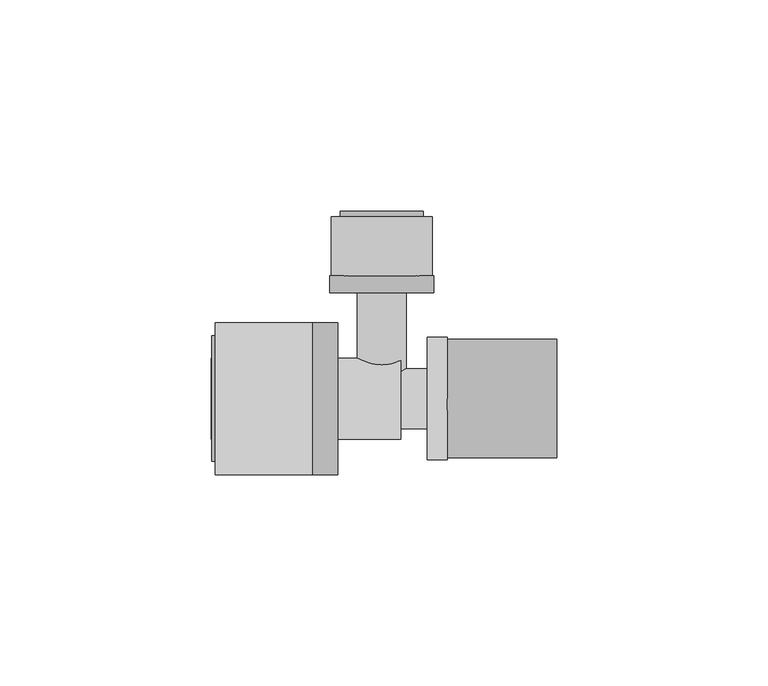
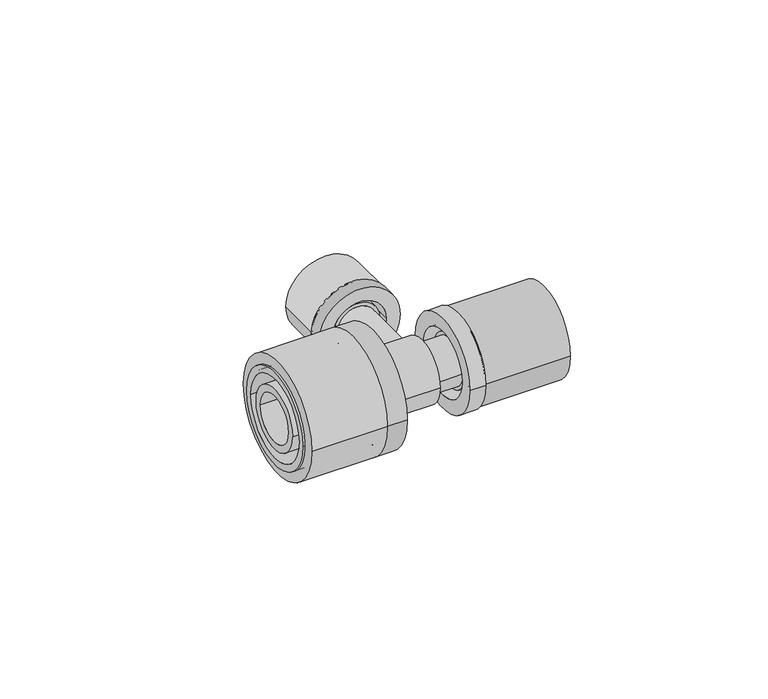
"""IFC4 building model written with IfcOpenShell, lengths in millimetres: pipe fitting geometry, FASTLOC_T-piece_LX : FSL T-Piece LX CZ."""

from ifc_helpers import new_model, si_unit, point, frame, origin, origin_2d, place, context, project, spatial, polyline, circle_curve, trimmed, segment, composite_curve, outline, extrude, source, transform, mapped, element, save
from ifc_brep_helpers import plane_surface, cylinder_surface, revolved_surface, advanced_brep


def pipe_fitting_3bea6388(model_context):
    return source(origin(), model_context, "Body", "SolidModel", [
        extrude(outline(composite_curve([segment(trimmed(circle_curve(origin_2d(), 14.0), [point((-14.0, 0.0))], [point((14.0, 0.0))], False, "CARTESIAN"), True, "CONTINUOUS"), segment(trimmed(circle_curve(origin_2d(), 14.0), [point((14.0, 0.0))], [point((-14.0, 0.0))], False, "CARTESIAN"), True, "CONTINUOUS")], self_intersect=False), holes=[composite_curve([segment(trimmed(circle_curve(origin_2d(), 10.7), [point((-10.7, 0.0))], [point((10.7, 0.0))], True, "CARTESIAN"), True, "CONTINUOUS"), segment(trimmed(circle_curve(origin_2d(), 10.7), [point((10.7, 0.0))], [point((-10.7, 0.0))], True, "CARTESIAN"), True, "CONTINUOUS")], self_intersect=False)]), frame((15.5, 0.0, 0.0), z_axis=(1.0, 0.0, 0.0), x_axis=(0.0, 1.0, 0.0)), (0.0, 0.0, 1.0), 26.0),
        advanced_brep(
        [(15.5, 14.5, 0.0), (15.5, -14.5, 0.0), (10.8, -14.5, 0.0), (10.8, 14.5, 0.0), (32.5, 11.85, 0.0), (32.5, -11.85, 0.0), (15.5, -11.85, 0.0), (15.5, 11.85, 0.0), (10.8, 10.15, 0.0), (10.8, -10.15, 0.0), (32.5, -10.15, 0.0), (32.5, 10.15, 0.0)],
        [
            (0, 1, circle_curve(frame((15.5, 0.0, 0.0), z_axis=(-1.0, 0.0, 0.0), x_axis=(0.0, -1.0, 0.0)), 14.5)),
            (1, 2),
            (2, 3, circle_curve(frame((10.8, 0.0, 0.0), z_axis=(1.0, 0.0, 0.0), x_axis=(0.0, -1.0, 0.0)), 14.5)),
            (3, 0),
            (4, 5, circle_curve(frame((32.5, 0.0, 0.0), z_axis=(-1.0, 0.0, 0.0), x_axis=(0.0, -1.0, 0.0)), 11.85)),
            (5, 6),
            (6, 7, circle_curve(frame((15.5, 0.0, 0.0), z_axis=(1.0, 0.0, 0.0), x_axis=(0.0, -1.0, 0.0)), 11.85)),
            (7, 4),
            (8, 9, circle_curve(frame((10.8, 0.0, 0.0), z_axis=(-1.0, 0.0, 0.0), x_axis=(0.0, -1.0, 0.0)), 10.15)),
            (9, 10),
            (10, 11, circle_curve(frame((32.5, 0.0, 0.0), z_axis=(1.0, 0.0, 0.0), x_axis=(0.0, -1.0, 0.0)), 10.15)),
            (11, 8),
            (1, 0, circle_curve(frame((15.5, 0.0, 0.0), z_axis=(-1.0, 0.0, 0.0), x_axis=(0.0, 1.0, 0.0)), 14.5)),
            (3, 2, circle_curve(frame((10.8, 0.0, 0.0), z_axis=(1.0, 0.0, 0.0), x_axis=(0.0, 1.0, 0.0)), 14.5)),
            (6, 7, circle_curve(frame((15.5, 0.0, 0.0), z_axis=(-1.0, 0.0, 0.0), x_axis=(0.0, 1.0, 0.0)), 11.85)),
            (5, 4, circle_curve(frame((32.5, 0.0, 0.0), z_axis=(-1.0, 0.0, 0.0), x_axis=(0.0, 1.0, 0.0)), 11.85)),
            (10, 11, circle_curve(frame((32.5, 0.0, 0.0), z_axis=(-1.0, 0.0, 0.0), x_axis=(0.0, 1.0, 0.0)), 10.15)),
            (9, 8, circle_curve(frame((10.8, 0.0, 0.0), z_axis=(-1.0, 0.0, 0.0), x_axis=(0.0, 1.0, 0.0)), 10.15)),
        ],
        [
            cylinder_surface(frame((10.8, 0.0, 0.0), z_axis=(1.0, 0.0, 0.0), x_axis=(0.0, -1.0, 0.0)), 14.5),
            cylinder_surface(frame((10.8, 0.0, 0.0), z_axis=(1.0, 0.0, 0.0), x_axis=(0.0, -1.0, 0.0)), 11.85),
            revolved_surface(polyline([(32.5, -10.15, 0.0), (10.8, -10.15, 0.0)]), (10.8, 0.0, 0.0), (1.0, 0.0, 0.0)),
            cylinder_surface(frame((10.8, 0.0, 0.0), z_axis=(1.0, 0.0, 0.0), x_axis=(0.0, 1.0, 0.0)), 14.5),
            plane_surface(frame((15.5, 0.0, 0.0), z_axis=(1.0, 0.0, 0.0), x_axis=(0.0, 1.0, 0.0))),
            cylinder_surface(frame((10.8, 0.0, 0.0), z_axis=(1.0, 0.0, 0.0), x_axis=(0.0, 1.0, 0.0)), 11.85),
            plane_surface(frame((32.5, 0.0, 0.0), z_axis=(1.0, 0.0, 0.0), x_axis=(0.0, 1.0, 0.0))),
            revolved_surface(polyline([(32.5, 10.15, 0.0), (10.8, 10.15, 0.0)]), (10.8, 0.0, 0.0), (1.0, 0.0, 0.0)),
            plane_surface(frame((10.8, 0.0, 0.0), z_axis=(-1.0, 0.0, 0.0), x_axis=(0.0, 1.0, 0.0))),
        ],
        [
            (0, [[1, 2, 3, 4]]),
            (1, [[5, 6, 7, 8]]),
            (2, [[9, 10, 11, 12]]),
            (3, [[13, -4, 14, -2]]),
            (4, [[-13, -1], [15, -7]]),
            (5, [[16, -8, -15, -6]]),
            (6, [[-16, -5], [17, -11]]),
            (7, [[18, -12, -17, -10]]),
            (8, [[-14, -3], [-18, -9]]),
        ],
    ),
        extrude(outline(composite_curve([segment(trimmed(circle_curve(origin_2d(), 18.0), [point((18.0, 0.0))], [point((-18.0, 0.0))], False, "CARTESIAN"), True, "CONTINUOUS"), segment(trimmed(circle_curve(origin_2d(), 18.0), [point((-18.0, 0.0))], [point((18.0, 0.0))], False, "CARTESIAN"), True, "CONTINUOUS")], self_intersect=False), holes=[composite_curve([segment(trimmed(circle_curve(origin_2d(), 13.5), [point((13.5, 0.0))], [point((-13.5, 0.0))], True, "CARTESIAN"), True, "CONTINUOUS"), segment(trimmed(circle_curve(origin_2d(), 13.5), [point((-13.5, 0.0))], [point((13.5, 0.0))], True, "CARTESIAN"), True, "CONTINUOUS")], self_intersect=False)]), frame((-39.4, 0.0, 0.0), z_axis=(1.0, 0.0, 0.0), x_axis=(0.0, 1.0, 0.0)), (0.0, 0.0, 1.0), 23.0),
        advanced_brep(
        [(-16.4, -18.0, 0.0), (-16.4, 18.0, 0.0), (-10.4, 18.0, 0.0), (-10.4, -18.0, 0.0), (-40.2, -14.85, 0.0), (-40.2, 14.85, 0.0), (-16.4, 14.85, 0.0), (-16.4, -14.85, 0.0), (-10.4, -12.65, 0.0), (-10.4, 12.65, 0.0), (-40.2, 12.65, 0.0), (-40.2, -12.65, 0.0)],
        [
            (0, 1, circle_curve(frame((-16.4, 0.0, 0.0), z_axis=(1.0, 0.0, 0.0), x_axis=(0.0, 1.0, 0.0)), 18.0)),
            (1, 2),
            (2, 3, circle_curve(frame((-10.4, 0.0, 0.0), z_axis=(-1.0, 0.0, 0.0), x_axis=(0.0, 1.0, 0.0)), 18.0)),
            (3, 0),
            (4, 5, circle_curve(frame((-40.2, 0.0, 0.0), z_axis=(1.0, 0.0, 0.0), x_axis=(0.0, 1.0, 0.0)), 14.85)),
            (5, 6),
            (6, 7, circle_curve(frame((-16.4, 0.0, 0.0), z_axis=(-1.0, 0.0, 0.0), x_axis=(0.0, 1.0, 0.0)), 14.85)),
            (7, 4),
            (8, 9, circle_curve(frame((-10.4, 0.0, 0.0), z_axis=(1.0, 0.0, 0.0), x_axis=(0.0, 1.0, 0.0)), 12.65)),
            (9, 10),
            (10, 11, circle_curve(frame((-40.2, 0.0, 0.0), z_axis=(-1.0, 0.0, 0.0), x_axis=(0.0, 1.0, 0.0)), 12.65)),
            (11, 8),
            (1, 0, circle_curve(frame((-16.4, 0.0, 0.0), z_axis=(1.0, 0.0, 0.0), x_axis=(0.0, -1.0, 0.0)), 18.0)),
            (3, 2, circle_curve(frame((-10.4, 0.0, 0.0), z_axis=(-1.0, 0.0, 0.0), x_axis=(0.0, -1.0, 0.0)), 18.0)),
            (6, 7, circle_curve(frame((-16.4, 0.0, 0.0), z_axis=(1.0, 0.0, 0.0), x_axis=(0.0, -1.0, 0.0)), 14.85)),
            (5, 4, circle_curve(frame((-40.2, 0.0, 0.0), z_axis=(1.0, 0.0, 0.0), x_axis=(0.0, -1.0, 0.0)), 14.85)),
            (10, 11, circle_curve(frame((-40.2, 0.0, 0.0), z_axis=(1.0, 0.0, 0.0), x_axis=(0.0, -1.0, 0.0)), 12.65)),
            (9, 8, circle_curve(frame((-10.4, 0.0, 0.0), z_axis=(1.0, 0.0, 0.0), x_axis=(0.0, -1.0, 0.0)), 12.65)),
        ],
        [
            cylinder_surface(frame((-10.4, 0.0, 0.0), z_axis=(-1.0, 0.0, 0.0), x_axis=(0.0, 1.0, 0.0)), 18.0),
            cylinder_surface(frame((-10.4, 0.0, 0.0), z_axis=(-1.0, 0.0, 0.0), x_axis=(0.0, 1.0, 0.0)), 14.85),
            revolved_surface(polyline([(-40.2, 12.65, 0.0), (-10.4, 12.65, 0.0)]), (-10.4, 0.0, 0.0), (-1.0, 0.0, 0.0)),
            cylinder_surface(frame((-10.4, 0.0, 0.0), z_axis=(-1.0, 0.0, 0.0), x_axis=(0.0, -1.0, 0.0)), 18.0),
            plane_surface(frame((-16.4, 0.0, 0.0), z_axis=(-1.0, 0.0, 0.0), x_axis=(0.0, -1.0, 0.0))),
            cylinder_surface(frame((-10.4, 0.0, 0.0), z_axis=(-1.0, 0.0, 0.0), x_axis=(0.0, -1.0, 0.0)), 14.85),
            plane_surface(frame((-40.2, 0.0, 0.0), z_axis=(-1.0, 0.0, 0.0), x_axis=(0.0, -1.0, 0.0))),
            revolved_surface(polyline([(-40.2, -12.65, 0.0), (-10.4, -12.65, 0.0)]), (-10.4, 0.0, 0.0), (-1.0, 0.0, 0.0)),
            plane_surface(frame((-10.4, 0.0, 0.0), z_axis=(1.0, 0.0, 0.0), x_axis=(0.0, -1.0, 0.0))),
        ],
        [
            (0, [[1, 2, 3, 4]]),
            (1, [[5, 6, 7, 8]]),
            (2, [[9, 10, 11, 12]]),
            (3, [[13, -4, 14, -2]]),
            (4, [[-13, -1], [15, -7]]),
            (5, [[16, -8, -15, -6]]),
            (6, [[-16, -5], [17, -11]]),
            (7, [[18, -12, -17, -10]]),
            (8, [[-14, -3], [-18, -9]]),
        ],
    ),
        extrude(outline(composite_curve([segment(trimmed(circle_curve(origin_2d(), 12.0), [point((0.0, 12.0))], [point((0.0, -12.0))], False, "CARTESIAN"), True, "CONTINUOUS"), segment(trimmed(circle_curve(origin_2d(), 12.0), [point((0.0, -12.0))], [point((0.0, 12.0))], False, "CARTESIAN"), True, "CONTINUOUS")], self_intersect=False), holes=[composite_curve([segment(trimmed(circle_curve(origin_2d(), 8.85), [point((0.0, 8.85))], [point((0.0, -8.85))], True, "CARTESIAN"), True, "CONTINUOUS"), segment(trimmed(circle_curve(origin_2d(), 8.85), [point((0.0, -8.85))], [point((0.0, 8.85))], True, "CARTESIAN"), True, "CONTINUOUS")], self_intersect=False)]), frame((0.0, 29.1, 0.0), z_axis=(0.0, 1.0, 0.0), x_axis=(0.0, 0.0, 1.0)), (0.0, 0.0, 1.0), 14.0),
        advanced_brep(
        [(-12.35, 29.1, 0.0), (12.35, 29.1, 0.0), (12.35, 25.1, 0.0), (-12.35, 25.1, 0.0), (-9.85, 44.4, 0.0), (9.85, 44.4, 0.0), (9.85, 29.1, 0.0), (-9.85, 29.1, 0.0), (-8.15, 25.1, 0.0), (8.15, 25.1, 0.0), (8.15, 44.4, 0.0), (-8.15, 44.4, 0.0)],
        [
            (0, 1, circle_curve(frame((0.0, 29.1, 0.0), z_axis=(0.0, -1.0, 0.0), x_axis=(1.0, 0.0, 0.0)), 12.35)),
            (1, 2),
            (2, 3, circle_curve(frame((0.0, 25.1, 0.0), z_axis=(0.0, 1.0, 0.0), x_axis=(1.0, 0.0, 0.0)), 12.35)),
            (3, 0),
            (4, 5, circle_curve(frame((0.0, 44.4, 0.0), z_axis=(0.0, -1.0, 0.0), x_axis=(1.0, 0.0, 0.0)), 9.85)),
            (5, 6),
            (6, 7, circle_curve(frame((0.0, 29.1, 0.0), z_axis=(0.0, 1.0, 0.0), x_axis=(1.0, 0.0, 0.0)), 9.85)),
            (7, 4),
            (8, 9, circle_curve(frame((0.0, 25.1, 0.0), z_axis=(0.0, -1.0, 0.0), x_axis=(1.0, 0.0, 0.0)), 8.15)),
            (9, 10),
            (10, 11, circle_curve(frame((0.0, 44.4, 0.0), z_axis=(0.0, 1.0, 0.0), x_axis=(1.0, 0.0, 0.0)), 8.15)),
            (11, 8),
            (1, 0, circle_curve(frame((0.0, 29.1, 0.0), z_axis=(0.0, -1.0, 0.0), x_axis=(-1.0, 0.0, 0.0)), 12.35)),
            (3, 2, circle_curve(frame((0.0, 25.1, 0.0), z_axis=(0.0, 1.0, 0.0), x_axis=(-1.0, 0.0, 0.0)), 12.35)),
            (6, 7, circle_curve(frame((0.0, 29.1, 0.0), z_axis=(0.0, -1.0, 0.0), x_axis=(-1.0, 0.0, 0.0)), 9.85)),
            (5, 4, circle_curve(frame((0.0, 44.4, 0.0), z_axis=(0.0, -1.0, 0.0), x_axis=(-1.0, 0.0, 0.0)), 9.85)),
            (10, 11, circle_curve(frame((0.0, 44.4, 0.0), z_axis=(0.0, -1.0, 0.0), x_axis=(-1.0, 0.0, 0.0)), 8.15)),
            (9, 8, circle_curve(frame((0.0, 25.1, 0.0), z_axis=(0.0, -1.0, 0.0), x_axis=(-1.0, 0.0, 0.0)), 8.15)),
        ],
        [
            cylinder_surface(frame((0.0, 25.1, 0.0), z_axis=(0.0, 1.0, 0.0), x_axis=(1.0, 0.0, 0.0)), 12.35),
            cylinder_surface(frame((0.0, 25.1, 0.0), z_axis=(0.0, 1.0, 0.0), x_axis=(1.0, 0.0, 0.0)), 9.85),
            revolved_surface(polyline([(8.15, 44.4, 0.0), (8.15, 25.1, 0.0)]), (0.0, 25.1, 0.0), (0.0, 1.0, 0.0)),
            cylinder_surface(frame((0.0, 25.1, 0.0), z_axis=(0.0, 1.0, 0.0), x_axis=(-1.0, 0.0, 0.0)), 12.35),
            plane_surface(frame((0.0, 29.1, 0.0), z_axis=(0.0, 1.0, 0.0), x_axis=(-1.0, 0.0, 0.0))),
            cylinder_surface(frame((0.0, 25.1, 0.0), z_axis=(0.0, 1.0, 0.0), x_axis=(-1.0, 0.0, 0.0)), 9.85),
            plane_surface(frame((0.0, 44.4, 0.0), z_axis=(0.0, 1.0, 0.0), x_axis=(-1.0, 0.0, 0.0))),
            revolved_surface(polyline([(-8.15, 44.4, 0.0), (-8.15, 25.1, 0.0)]), (0.0, 25.1, 0.0), (0.0, 1.0, 0.0)),
            plane_surface(frame((0.0, 25.1, 0.0), z_axis=(0.0, -1.0, 0.0), x_axis=(-1.0, 0.0, 0.0))),
        ],
        [
            (0, [[1, 2, 3, 4]]),
            (1, [[5, 6, 7, 8]]),
            (2, [[9, 10, 11, 12]]),
            (3, [[13, -4, 14, -2]]),
            (4, [[-13, -1], [15, -7]]),
            (5, [[16, -8, -15, -6]]),
            (6, [[-16, -5], [17, -11]]),
            (7, [[18, -12, -17, -10]]),
            (8, [[-14, -3], [-18, -9]]),
        ],
    ),
        advanced_brep(
        [(12.83, 7.1, 0.0), (12.83, -7.1, 0.0), (4.5, -7.1, 0.0), (4.5, 7.1, 0.0), (15.5, 8.15, 0.0), (15.5, -8.15, 0.0), (12.83, -8.15, 0.0), (12.83, 8.15, 0.0), (32.9, 7.1, 0.0), (32.9, -7.1, 0.0), (15.5, -7.1, 0.0), (15.5, 7.1, 0.0), (2.5, 5.1, 0.0), (2.5, -5.1, 0.0), (32.9, -5.1, 0.0), (32.9, 5.1, 0.0), (-40.4, 7.35, 0.0), (-40.4, -7.35, 0.0), (2.5, -7.35, 0.0), (2.5, 7.35, 0.0), (-16.4, 9.6, 0.0), (-16.4, -9.6, 0.0), (-40.4, -9.6, 0.0), (-40.4, 9.6, 0.0), (-13.6, 11.1, 0.0), (-13.6, -11.1, 0.0), (-16.4, -11.1, 0.0), (-16.4, 11.1, 0.0), (4.5, 9.6, 0.0), (4.5, -9.6, 0.0), (-13.6, -9.6, 0.0), (-13.6, 9.6, 0.0)],
        [
            (0, 1, circle_curve(frame((12.83, 0.0, 0.0), z_axis=(-1.0, 0.0, 0.0), x_axis=(0.0, -1.0, 0.0)), 7.1)),
            (1, 2),
            (2, 3, circle_curve(frame((4.5, 0.0, 0.0), z_axis=(1.0, 0.0, 0.0), x_axis=(0.0, -1.0, 0.0)), 7.1)),
            (3, 0),
            (4, 5, circle_curve(frame((15.5, 0.0, 0.0), z_axis=(-1.0, 0.0, 0.0), x_axis=(0.0, -1.0, 0.0)), 8.15)),
            (5, 6),
            (6, 7, circle_curve(frame((12.83, 0.0, 0.0), z_axis=(1.0, 0.0, 0.0), x_axis=(0.0, -1.0, 0.0)), 8.15)),
            (7, 4),
            (8, 9, circle_curve(frame((32.9, 0.0, 0.0), z_axis=(-1.0, 0.0, 0.0), x_axis=(0.0, -1.0, 0.0)), 7.1)),
            (9, 10),
            (10, 11, circle_curve(frame((15.5, 0.0, 0.0), z_axis=(1.0, 0.0, 0.0), x_axis=(0.0, -1.0, 0.0)), 7.1)),
            (11, 8),
            (12, 13, circle_curve(frame((2.5, 0.0, 0.0), z_axis=(-1.0, 0.0, 0.0), x_axis=(0.0, -1.0, 0.0)), 5.1)),
            (13, 14),
            (14, 15, circle_curve(frame((32.9, 0.0, 0.0), z_axis=(1.0, 0.0, 0.0), x_axis=(0.0, -1.0, 0.0)), 5.1)),
            (15, 12),
            (16, 17, circle_curve(frame((-40.4, 0.0, 0.0), z_axis=(-1.0, 0.0, 0.0), x_axis=(0.0, -1.0, 0.0)), 7.35)),
            (17, 18),
            (18, 19, circle_curve(frame((2.5, 0.0, 0.0), z_axis=(1.0, 0.0, 0.0), x_axis=(0.0, -1.0, 0.0)), 7.35)),
            (19, 16),
            (20, 21, circle_curve(frame((-16.4, 0.0, 0.0), z_axis=(-1.0, 0.0, 0.0), x_axis=(0.0, -1.0, 0.0)), 9.6)),
            (21, 22),
            (22, 23, circle_curve(frame((-40.4, 0.0, 0.0), z_axis=(1.0, 0.0, 0.0), x_axis=(0.0, -1.0, 0.0)), 9.6)),
            (23, 20),
            (24, 25, circle_curve(frame((-13.6, 0.0, 0.0), z_axis=(-1.0, 0.0, 0.0), x_axis=(0.0, -1.0, 0.0)), 11.1)),
            (25, 26),
            (26, 27, circle_curve(frame((-16.4, 0.0, 0.0), z_axis=(1.0, 0.0, 0.0), x_axis=(0.0, -1.0, 0.0)), 11.1)),
            (27, 24),
            (28, 29, circle_curve(frame((4.5, 0.0, 0.0), z_axis=(-1.0, 0.0, 0.0), x_axis=(0.0, -1.0, 0.0)), 9.6)),
            (29, 30),
            (30, 31, circle_curve(frame((-13.6, 0.0, 0.0), z_axis=(1.0, 0.0, 0.0), x_axis=(0.0, -1.0, 0.0)), 9.6)),
            (31, 28),
            (28, 29, circle_curve(frame((4.5, 0.0, 0.0), z_axis=(1.0, 0.0, 0.0), x_axis=(0.0, 1.0, 0.0)), 9.6)),
            (2, 3, circle_curve(frame((4.5, 0.0, 0.0), z_axis=(-1.0, 0.0, 0.0), x_axis=(0.0, 1.0, 0.0)), 7.1)),
            (1, 0, circle_curve(frame((12.83, 0.0, 0.0), z_axis=(-1.0, 0.0, 0.0), x_axis=(0.0, 1.0, 0.0)), 7.1)),
            (6, 7, circle_curve(frame((12.83, 0.0, 0.0), z_axis=(-1.0, 0.0, 0.0), x_axis=(0.0, 1.0, 0.0)), 8.15)),
            (5, 4, circle_curve(frame((15.5, 0.0, 0.0), z_axis=(-1.0, 0.0, 0.0), x_axis=(0.0, 1.0, 0.0)), 8.15)),
            (10, 11, circle_curve(frame((15.5, 0.0, 0.0), z_axis=(-1.0, 0.0, 0.0), x_axis=(0.0, 1.0, 0.0)), 7.1)),
            (9, 8, circle_curve(frame((32.9, 0.0, 0.0), z_axis=(-1.0, 0.0, 0.0), x_axis=(0.0, 1.0, 0.0)), 7.1)),
            (14, 15, circle_curve(frame((32.9, 0.0, 0.0), z_axis=(-1.0, 0.0, 0.0), x_axis=(0.0, 1.0, 0.0)), 5.1)),
            (13, 12, circle_curve(frame((2.5, 0.0, 0.0), z_axis=(-1.0, 0.0, 0.0), x_axis=(0.0, 1.0, 0.0)), 5.1)),
            (18, 19, circle_curve(frame((2.5, 0.0, 0.0), z_axis=(-1.0, 0.0, 0.0), x_axis=(0.0, 1.0, 0.0)), 7.35)),
            (17, 16, circle_curve(frame((-40.4, 0.0, 0.0), z_axis=(-1.0, 0.0, 0.0), x_axis=(0.0, 1.0, 0.0)), 7.35)),
            (22, 23, circle_curve(frame((-40.4, 0.0, 0.0), z_axis=(-1.0, 0.0, 0.0), x_axis=(0.0, 1.0, 0.0)), 9.6)),
            (21, 20, circle_curve(frame((-16.4, 0.0, 0.0), z_axis=(-1.0, 0.0, 0.0), x_axis=(0.0, 1.0, 0.0)), 9.6)),
            (26, 27, circle_curve(frame((-16.4, 0.0, 0.0), z_axis=(-1.0, 0.0, 0.0), x_axis=(0.0, 1.0, 0.0)), 11.1)),
            (25, 24, circle_curve(frame((-13.6, 0.0, 0.0), z_axis=(-1.0, 0.0, 0.0), x_axis=(0.0, 1.0, 0.0)), 11.1)),
            (30, 31, circle_curve(frame((-13.6, 0.0, 0.0), z_axis=(-1.0, 0.0, 0.0), x_axis=(0.0, 1.0, 0.0)), 9.6)),
        ],
        [
            cylinder_surface(frame((0.0, 0.0, 0.0), z_axis=(1.0, 0.0, 0.0), x_axis=(0.0, -1.0, 0.0)), 7.1),
            cylinder_surface(frame((0.0, 0.0, 0.0), z_axis=(1.0, 0.0, 0.0), x_axis=(0.0, -1.0, 0.0)), 8.15),
            revolved_surface(polyline([(32.9, -5.1, 0.0), (2.5, -5.1, 0.0)]), (0.0, 0.0, 0.0), (1.0, 0.0, 0.0)),
            revolved_surface(polyline([(2.5, -7.35, 0.0), (-40.4, -7.35, 0.0)]), (0.0, 0.0, 0.0), (1.0, 0.0, 0.0)),
            cylinder_surface(frame((0.0, 0.0, 0.0), z_axis=(1.0, 0.0, 0.0), x_axis=(0.0, -1.0, 0.0)), 9.6),
            cylinder_surface(frame((0.0, 0.0, 0.0), z_axis=(1.0, 0.0, 0.0), x_axis=(0.0, -1.0, 0.0)), 11.1),
            plane_surface(frame((4.5, 0.0, 0.0), z_axis=(1.0, 0.0, 0.0), x_axis=(0.0, 1.0, 0.0))),
            cylinder_surface(frame((0.0, 0.0, 0.0), z_axis=(1.0, 0.0, 0.0), x_axis=(0.0, 1.0, 0.0)), 7.1),
            plane_surface(frame((12.83, 0.0, 0.0), z_axis=(-1.0, 0.0, 0.0), x_axis=(0.0, 1.0, 0.0))),
            cylinder_surface(frame((0.0, 0.0, 0.0), z_axis=(1.0, 0.0, 0.0), x_axis=(0.0, 1.0, 0.0)), 8.15),
            plane_surface(frame((15.5, 0.0, 0.0), z_axis=(1.0, 0.0, 0.0), x_axis=(0.0, 1.0, 0.0))),
            plane_surface(frame((32.9, 0.0, 0.0), z_axis=(1.0, 0.0, 0.0), x_axis=(0.0, 1.0, 0.0))),
            revolved_surface(polyline([(32.9, 5.1, 0.0), (2.5, 5.1, 0.0)]), (0.0, 0.0, 0.0), (1.0, 0.0, 0.0)),
            plane_surface(frame((2.5, 0.0, 0.0), z_axis=(-1.0, 0.0, 0.0), x_axis=(0.0, 1.0, 0.0))),
            revolved_surface(polyline([(2.5, 7.35, 0.0), (-40.4, 7.35, 0.0)]), (0.0, 0.0, 0.0), (1.0, 0.0, 0.0)),
            plane_surface(frame((-40.4, 0.0, 0.0), z_axis=(-1.0, 0.0, 0.0), x_axis=(0.0, 1.0, 0.0))),
            cylinder_surface(frame((0.0, 0.0, 0.0), z_axis=(1.0, 0.0, 0.0), x_axis=(0.0, 1.0, 0.0)), 9.6),
            plane_surface(frame((-16.4, 0.0, 0.0), z_axis=(-1.0, 0.0, 0.0), x_axis=(0.0, 1.0, 0.0))),
            cylinder_surface(frame((0.0, 0.0, 0.0), z_axis=(1.0, 0.0, 0.0), x_axis=(0.0, 1.0, 0.0)), 11.1),
            plane_surface(frame((-13.6, 0.0, 0.0), z_axis=(1.0, 0.0, 0.0), x_axis=(0.0, 1.0, 0.0))),
        ],
        [
            (0, [[1, 2, 3, 4]]),
            (1, [[5, 6, 7, 8]]),
            (0, [[9, 10, 11, 12]]),
            (2, [[13, 14, 15, 16]]),
            (3, [[17, 18, 19, 20]]),
            (4, [[21, 22, 23, 24]]),
            (5, [[25, 26, 27, 28]]),
            (4, [[29, 30, 31, 32]]),
            (6, [[33, -29], [34, -3]]),
            (7, [[35, -4, -34, -2]]),
            (8, [[36, -7], [-35, -1]]),
            (9, [[37, -8, -36, -6]]),
            (10, [[-37, -5], [38, -11]]),
            (7, [[39, -12, -38, -10]]),
            (11, [[-39, -9], [40, -15]]),
            (12, [[41, -16, -40, -14]]),
            (13, [[42, -19], [-41, -13]]),
            (14, [[43, -20, -42, -18]]),
            (15, [[44, -23], [-43, -17]]),
            (16, [[45, -24, -44, -22]]),
            (17, [[46, -27], [-45, -21]]),
            (18, [[47, -28, -46, -26]]),
            (19, [[-47, -25], [48, -31]]),
            (16, [[-33, -32, -48, -30]]),
        ],
    ),
        advanced_brep(
        [(3.95, 44.1, 0.0), (-3.95, 44.1, 0.0), (-3.95, 0.0, 0.0), (3.95, 0.0, 0.0), (5.8, 0.0, 0.0), (-5.8, 0.0, 0.0), (-5.8, 26.39, 0.0), (5.8, 26.39, 0.0), (6.9, 26.39, 0.0), (-6.9, 26.39, 0.0), (-6.9, 29.1, 0.0), (6.9, 29.1, 0.0), (5.8, 29.1, 0.0), (-5.8, 29.1, 0.0), (-5.8, 44.1, 0.0), (5.8, 44.1, 0.0)],
        [
            (0, 1, circle_curve(frame((0.0, 44.1, 0.0), z_axis=(0.0, 1.0, 0.0), x_axis=(-1.0, 0.0, 0.0)), 3.95)),
            (1, 2),
            (2, 3, circle_curve(frame((0.0, 0.0, 0.0), z_axis=(0.0, -1.0, 0.0), x_axis=(-1.0, 0.0, 0.0)), 3.95)),
            (3, 0),
            (4, 5, circle_curve(frame((0.0, 0.0, 0.0), z_axis=(0.0, 1.0, 0.0), x_axis=(-1.0, 0.0, 0.0)), 5.8)),
            (5, 6),
            (6, 7, circle_curve(frame((0.0, 26.39, 0.0), z_axis=(0.0, -1.0, 0.0), x_axis=(-1.0, 0.0, 0.0)), 5.8)),
            (7, 4),
            (8, 9, circle_curve(frame((0.0, 26.39, 0.0), z_axis=(0.0, 1.0, 0.0), x_axis=(-1.0, 0.0, 0.0)), 6.9)),
            (9, 10),
            (10, 11, circle_curve(frame((0.0, 29.1, 0.0), z_axis=(0.0, -1.0, 0.0), x_axis=(-1.0, 0.0, 0.0)), 6.9)),
            (11, 8),
            (12, 13, circle_curve(frame((0.0, 29.1, 0.0), z_axis=(0.0, 1.0, 0.0), x_axis=(-1.0, 0.0, 0.0)), 5.8)),
            (13, 14),
            (14, 15, circle_curve(frame((0.0, 44.1, 0.0), z_axis=(0.0, -1.0, 0.0), x_axis=(-1.0, 0.0, 0.0)), 5.8)),
            (15, 12),
            (1, 0, circle_curve(frame((0.0, 44.1, 0.0), z_axis=(0.0, 1.0, 0.0), x_axis=(1.0, 0.0, 0.0)), 3.95)),
            (3, 2, circle_curve(frame((0.0, 0.0, 0.0), z_axis=(0.0, -1.0, 0.0), x_axis=(1.0, 0.0, 0.0)), 3.95)),
            (4, 5, circle_curve(frame((0.0, 0.0, 0.0), z_axis=(0.0, -1.0, 0.0), x_axis=(1.0, 0.0, 0.0)), 5.8)),
            (7, 6, circle_curve(frame((0.0, 26.39, 0.0), z_axis=(0.0, -1.0, 0.0), x_axis=(1.0, 0.0, 0.0)), 5.8)),
            (8, 9, circle_curve(frame((0.0, 26.39, 0.0), z_axis=(0.0, -1.0, 0.0), x_axis=(1.0, 0.0, 0.0)), 6.9)),
            (11, 10, circle_curve(frame((0.0, 29.1, 0.0), z_axis=(0.0, -1.0, 0.0), x_axis=(1.0, 0.0, 0.0)), 6.9)),
            (12, 13, circle_curve(frame((0.0, 29.1, 0.0), z_axis=(0.0, -1.0, 0.0), x_axis=(1.0, 0.0, 0.0)), 5.8)),
            (15, 14, circle_curve(frame((0.0, 44.1, 0.0), z_axis=(0.0, -1.0, 0.0), x_axis=(1.0, 0.0, 0.0)), 5.8)),
        ],
        [
            revolved_surface(polyline([(-3.95, 0.0, 0.0), (-3.95, 44.1, 0.0)]), (0.0, 0.0, 0.0), (0.0, -1.0, 0.0)),
            cylinder_surface(frame((0.0, 0.0, 0.0), z_axis=(0.0, -1.0, 0.0), x_axis=(-1.0, 0.0, 0.0)), 5.8),
            cylinder_surface(frame((0.0, 0.0, 0.0), z_axis=(0.0, -1.0, 0.0), x_axis=(-1.0, 0.0, 0.0)), 6.9),
            revolved_surface(polyline([(3.95, 0.0, 0.0), (3.95, 44.1, 0.0)]), (0.0, 0.0, 0.0), (0.0, -1.0, 0.0)),
            plane_surface(frame((0.0, 0.0, 0.0), z_axis=(0.0, -1.0, 0.0), x_axis=(1.0, 0.0, 0.0))),
            cylinder_surface(frame((0.0, 0.0, 0.0), z_axis=(0.0, -1.0, 0.0), x_axis=(1.0, 0.0, 0.0)), 5.8),
            plane_surface(frame((0.0, 26.39, 0.0), z_axis=(0.0, -1.0, 0.0), x_axis=(1.0, 0.0, 0.0))),
            cylinder_surface(frame((0.0, 0.0, 0.0), z_axis=(0.0, -1.0, 0.0), x_axis=(1.0, 0.0, 0.0)), 6.9),
            plane_surface(frame((0.0, 29.1, 0.0), z_axis=(0.0, 1.0, 0.0), x_axis=(1.0, 0.0, 0.0))),
            plane_surface(frame((0.0, 44.1, 0.0), z_axis=(0.0, 1.0, 0.0), x_axis=(1.0, 0.0, 0.0))),
        ],
        [
            (0, [[1, 2, 3, 4]]),
            (1, [[5, 6, 7, 8]]),
            (2, [[9, 10, 11, 12]]),
            (1, [[13, 14, 15, 16]]),
            (3, [[17, -4, 18, -2]]),
            (4, [[19, -5], [-18, -3]]),
            (5, [[-19, -8, 20, -6]]),
            (6, [[21, -9], [-20, -7]]),
            (7, [[-21, -12, 22, -10]]),
            (8, [[-22, -11], [23, -13]]),
            (5, [[-23, -16, 24, -14]]),
            (9, [[-24, -15], [-17, -1]]),
        ],
    ),
    ])


if __name__ == "__main__":
    model = new_model("IFC4")
    model_context = context("Model", 3, world=origin())
    ifc_project = project(units=[si_unit("LENGTHUNIT", "METRE", prefix="MILLI")], contexts=[model_context])
    site = spatial("IfcSite", under=ifc_project)
    building = spatial("IfcBuilding", under=site)
    placement = place(None, origin())
    pipe_fitting_shape = pipe_fitting_3bea6388(model_context)
    element("IfcPipeFitting", 1, ObjectType="FASTLOC_T-piece_LX : FSL T-Piece LX CZ", at=placement, inside=building, context=model_context, shape_type="MappedRepresentation", body=[
        mapped(pipe_fitting_shape, transform((0.0, 0.0, 0.0), x_axis=(1.0, 0.0, 0.0), y_axis=(0.0, 1.0, 0.0), z_axis=(0.0, 0.0, 1.0))),
    ])
    save(model, "model.ifc")
